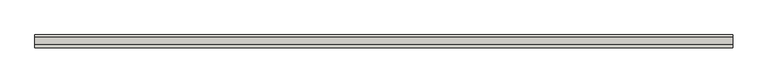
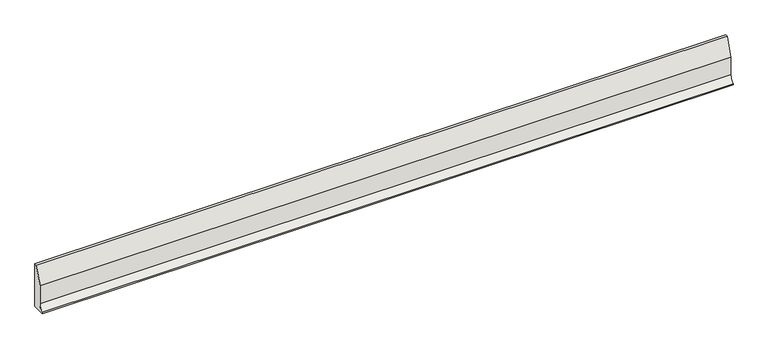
"""IFC4 building model written with IfcOpenShell, lengths in millimetres: wall geometry, GM_PC_WPB_ACO kerb PB straight_ACO : PB H300 plain."""

from ifc_helpers import new_model, si_unit, frame, origin, place, context, project, spatial, source, transform, mapped, element, save
from ifc_brep_helpers import plane_surface, extruded_surface, spline_curve, advanced_brep


def wall_9d54f5ed(model_context):
    return source(origin(), model_context, "Body", "AdvancedBrep", [
        advanced_brep(
        [(0.0, -85.0, 8.9329844), (0.0, -60.02016, 54.9904169), (0.0, -60.02016, 180.0038512), (0.0, -16.0766274, 300.0008401), (0.0, 0.0, 300.0008401), (0.0, 0.0, -0.0124899), (0.0, -85.0, -0.0124899), (4600.0, -85.0, 8.9329844), (4600.0, -85.0, -0.0124899), (4600.0, 0.0, -0.0124899), (4600.0, 0.0, 300.0008401), (4600.0, -16.0766274, 300.0008401), (4600.0, -60.02016, 180.0038512), (4600.0, -60.02016, 54.9904169)],
        [
            (0, 1, spline_curve(3, [(0.0, -85.0, 8.9329844), (0.0, -69.4194957, 19.0724445), (0.0, -60.0210198, 36.401179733), (0.0, -60.02016, 54.9904169)], [4, 4], [0.0, 1.0])),
            (1, 2),
            (2, 3),
            (3, 4),
            (4, 5),
            (5, 6),
            (6, 0),
            (7, 8),
            (8, 9),
            (9, 10),
            (10, 11),
            (11, 12),
            (12, 13),
            (13, 7, spline_curve(3, [(4600.0, -60.02016, 54.9904169), (4600.0, -60.0210198, 36.401179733), (4600.0, -69.4194957, 19.0724445), (4600.0, -85.0, 8.9329844)], [4, 4], [0.0, 1.0])),
            (0, 7),
            (13, 1),
            (12, 2),
            (11, 3),
            (10, 4),
            (9, 5),
            (8, 6),
        ],
        [
            plane_surface(frame((0.0, 0.0, 0.0), z_axis=(-1.0, 0.0, 0.0), x_axis=(0.0, 0.0, 1.0))),
            plane_surface(frame((4600.0, 0.0, 0.0), z_axis=(1.0, 0.0, 0.0), x_axis=(0.0, 0.0, 1.0))),
            extruded_surface(spline_curve(3, [(4600.0, -85.0, 8.9329844), (4600.0, -69.4194957, 19.0724445), (4600.0, -60.0210198, 36.401179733), (4600.0, -60.02016, 54.9904169)], [4, 4], [0.0, 1.0]), (-4600.0, 0.0, 0.0), 4600.0),
            plane_surface(frame((0.0, -60.02016, 54.9904169), z_axis=(0.0, -1.0, 0.0), x_axis=(1.0, 0.0, 0.0))),
            plane_surface(frame((0.0, -60.02016, 180.0038512), z_axis=(0.0, -0.9390162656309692, 0.34387272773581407), x_axis=(1.0, 0.0, 0.0))),
            plane_surface(frame((0.0, -16.0766274, 300.0008401), z_axis=(0.0, 0.0, 1.0), x_axis=(1.0, 0.0, 0.0))),
            plane_surface(frame((0.0, 0.0, 300.0008401), z_axis=(0.0, 1.0, 0.0), x_axis=(1.0, 0.0, 0.0))),
            plane_surface(frame((0.0, 0.0, -0.0124899), z_axis=(0.0, 0.0, -1.0), x_axis=(1.0, 0.0, 0.0))),
            plane_surface(frame((0.0, -85.0, -0.0124899), z_axis=(0.0, -1.0, 0.0), x_axis=(1.0, 0.0, 0.0))),
        ],
        [
            (0, [[1, 2, 3, 4, 5, 6, 7]]),
            (1, [[8, 9, 10, 11, 12, 13, 14]]),
            (2, [[-1, 15, -14, 16]]),
            (3, [[-2, -16, -13, 17]]),
            (4, [[-3, -17, -12, 18]]),
            (5, [[-4, -18, -11, 19]]),
            (6, [[-5, -19, -10, 20]]),
            (7, [[-6, -20, -9, 21]]),
            (8, [[-7, -21, -8, -15]]),
        ],
    ),
    ])


if __name__ == "__main__":
    model = new_model("IFC4")
    model_context = context("Model", 3, world=origin())
    ifc_project = project(units=[si_unit("LENGTHUNIT", "METRE", prefix="MILLI")], contexts=[model_context])
    site = spatial("IfcSite", under=ifc_project)
    building = spatial("IfcBuilding", under=site)
    placement = place(None, origin())
    wall_shape = wall_9d54f5ed(model_context)
    element("IfcWall", 1, ObjectType="GM_PC_WPB_ACO kerb PB straight_ACO : PB H300 plain", at=placement, inside=building, context=model_context, shape_type="MappedRepresentation", body=[
        mapped(wall_shape, transform((0.0, 0.0, 0.0), x_axis=(1.0, 0.0, 0.0), y_axis=(0.0, 1.0, 0.0), z_axis=(0.0, 0.0, 1.0))),
    ])
    save(model, "model.ifc")
